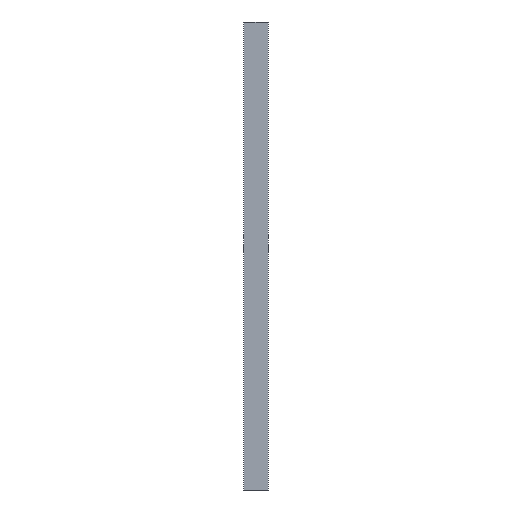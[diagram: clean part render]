
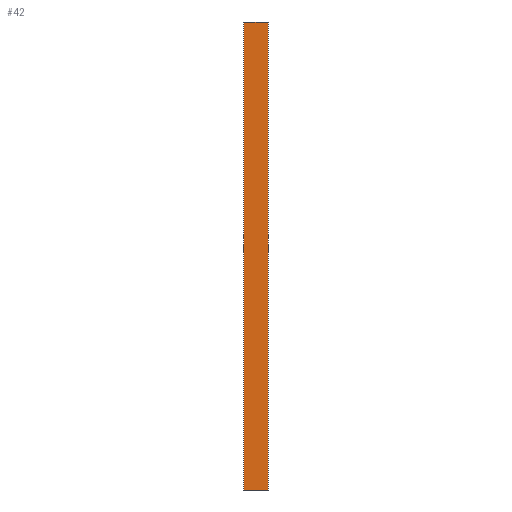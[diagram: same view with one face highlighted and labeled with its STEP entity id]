
A CAD part, left-side view. The second image highlights one B-rep face of the part: STEP entity #42.
In plain terms, the highlighted planar face has unit normal (-1, 0, 0).
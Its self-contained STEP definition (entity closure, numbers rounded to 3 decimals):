
#1 = CARTESIAN_POINT ( 'NONE',  ( -5.25, 15., 0. ) ) ;
#5 = CARTESIAN_POINT ( 'NONE',  ( -5.25, -15., 0. ) ) ;
#35 = LINE ( 'NONE', #290, #133 ) ;
#42 = ADVANCED_FACE ( 'NONE', ( #112 ), #335, .T. ) ;
#73 = ORIENTED_EDGE ( 'NONE', *, *, #184, .T. ) ;
#74 = ORIENTED_EDGE ( 'NONE', *, *, #181, .T. ) ;
#75 = ORIENTED_EDGE ( 'NONE', *, *, #177, .F. ) ;
#79 = ORIENTED_EDGE ( 'NONE', *, *, #213, .F. ) ;
#95 = EDGE_LOOP ( 'NONE', ( #79, #75, #74, #73 ) ) ;
#112 = FACE_OUTER_BOUND ( 'NONE', #95, .T. ) ;
#125 = VECTOR ( 'NONE', #294, 1000. ) ;
#126 = LINE ( 'NONE', #297, #125 ) ;
#133 = VECTOR ( 'NONE', #285, 1000. ) ;
#134 = LINE ( 'NONE', #280, #139 ) ;
#139 = VECTOR ( 'NONE', #275, 1000. ) ;
#164 = LINE ( 'NONE', #231, #165 ) ;
#165 = VECTOR ( 'NONE', #229, 1000. ) ;
#177 = EDGE_CURVE ( 'NONE', #284, #289, #126, .T. ) ;
#181 = EDGE_CURVE ( 'NONE', #284, #286, #35, .T. ) ;
#184 = EDGE_CURVE ( 'NONE', #286, #299, #134, .T. ) ;
#200 = AXIS2_PLACEMENT_3D ( 'NONE', #331, #325, #324 ) ;
#213 = EDGE_CURVE ( 'NONE', #289, #299, #164, .T. ) ;
#229 = DIRECTION ( 'NONE',  ( 0., -1., 0. ) ) ;
#231 = CARTESIAN_POINT ( 'NONE',  ( -5.25, -15., 0. ) ) ;
#235 = CARTESIAN_POINT ( 'NONE',  ( -5.25, -15., -567.1 ) ) ;
#260 = CARTESIAN_POINT ( 'NONE',  ( -5.25, 15., -567.1 ) ) ;
#275 = DIRECTION ( 'NONE',  ( 0., 0., 1. ) ) ;
#280 = CARTESIAN_POINT ( 'NONE',  ( -5.25, -15., -567.1 ) ) ;
#284 = VERTEX_POINT ( 'NONE', #260 ) ;
#285 = DIRECTION ( 'NONE',  ( 0., -1., 0. ) ) ;
#286 = VERTEX_POINT ( 'NONE', #235 ) ;
#289 = VERTEX_POINT ( 'NONE', #1 ) ;
#290 = CARTESIAN_POINT ( 'NONE',  ( -5.25, -15., -567.1 ) ) ;
#294 = DIRECTION ( 'NONE',  ( 0., 0., 1. ) ) ;
#297 = CARTESIAN_POINT ( 'NONE',  ( -5.25, 15., -567.1 ) ) ;
#299 = VERTEX_POINT ( 'NONE', #5 ) ;
#324 = DIRECTION ( 'NONE',  ( 0., 0., 1. ) ) ;
#325 = DIRECTION ( 'NONE',  ( -1., 0., 0. ) ) ;
#331 = CARTESIAN_POINT ( 'NONE',  ( -5.25, -15., -567.1 ) ) ;
#335 = PLANE ( 'NONE',  #200 ) ;
